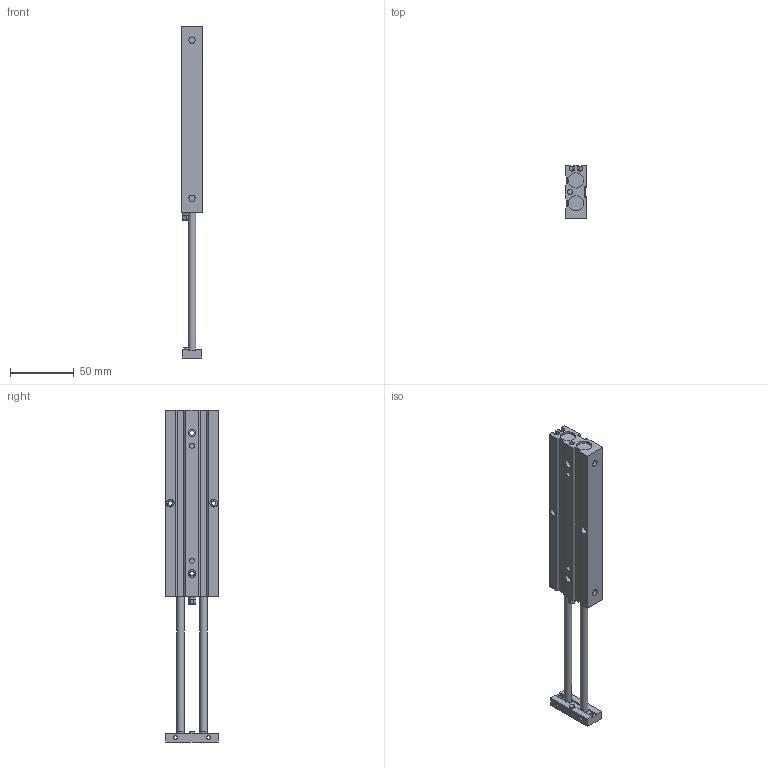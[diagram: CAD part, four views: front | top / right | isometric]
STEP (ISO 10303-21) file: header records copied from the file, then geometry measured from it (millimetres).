
FILE_DESCRIPTION((''),'2;1');
FILE_NAME('I:\3D電子目錄\氣缸\TD\TD10\TD10\TD10x100.stp','2007-08-06T09:35:01',('Administrator'),(''),'Autodesk Inventor 2008','Autodesk Inventor 2008','');
FILE_SCHEMA(('AUTOMOTIVE_DESIGN { 1 0 10303 214 1 1 1 1 }'));
Length unit declared in the file: millimetre
Products named in the file (1): TD10X100
Bounding box: 17 x 42 x 260 mm (x, y, z)
Volume: 101197.3 mm3; surface area: 31331.9 mm2
Topology: 1 solids, 3 shells, 153 faces, 377 edges, 246 vertices
Faces by surface type: plane 99, cylinder 32, bspline 13, cone 7, torus 2
Full cylindrical faces by diameter (mm): 3 x2, 3.5 x4, 4 x4, 4.011 x2, 5 x4, 6 x8, 7 x2, 12 x4
Entity records: 4542 total; most frequent: CARTESIAN_POINT 1135, DIRECTION 662, ORIENTED_EDGE 644, EDGE_CURVE 322, EDGE_LOOP 238, VERTEX_POINT 234, AXIS2_PLACEMENT_3D 229, VECTOR 204
